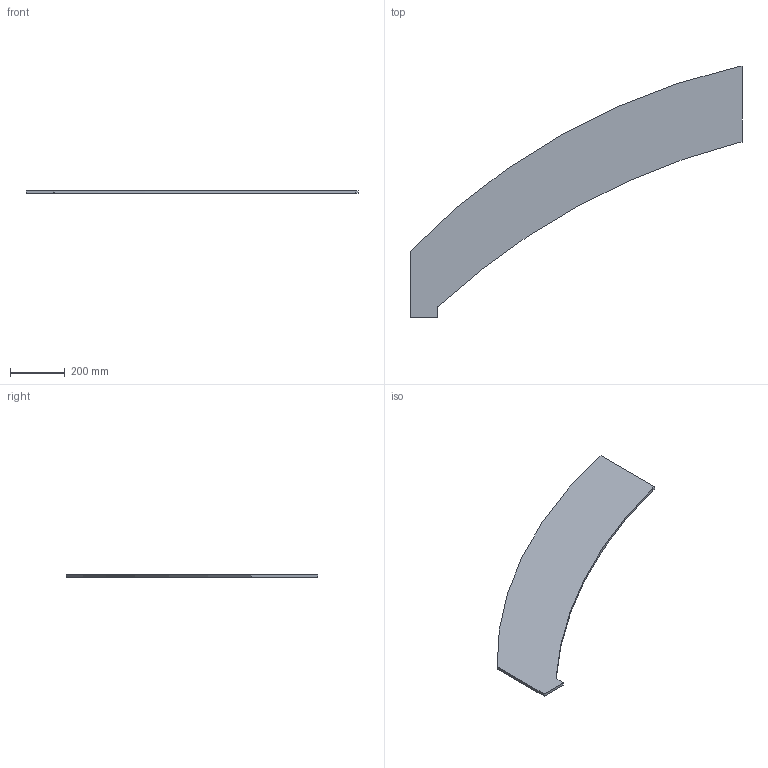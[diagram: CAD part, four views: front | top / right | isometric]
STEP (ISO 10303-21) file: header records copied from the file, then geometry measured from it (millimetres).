
FILE_DESCRIPTION(/* description */ (''),/* implementation_level */ '2;1');
FILE_NAME(/* name */ 'Pos117-Plaatwerk D= 10-S235JRG2-3st',/* time_stamp */ '2024-08-06T13:37:43+02:00',/* author */ (''),/* organization */ (''),/* preprocessor_version */ 'ST-DEVELOPER v16.5',/* originating_system */ 'HiCAD 2024 2901.2 Build 361',/* authorisation */ '');
FILE_SCHEMA (('AUTOMOTIVE_DESIGN { 1 0 10303 214 1 1 1 1 }'));
Length unit declared in the file: millimetre
Products named in the file (1): Pos117-Plaatwerk D= 10-S235JRG2-3st
Bounding box: 1215 x 919.64 x 10 mm (x, y, z)
Volume: 3547330.4 mm3; surface area: 742986.8 mm2
Topology: 1 solids, 1 shells, 11 faces, 47 edges, 58 vertices
Faces by surface type: plane 8, cylinder 3
Entity records: 897 total; most frequent: CARTESIAN_POINT 116, PRESENTATION_STYLE_ASSIGNMENT 75, DIRECTION 75, COLOUR_RGB 56, DRAUGHTING_PRE_DEFINED_CURVE_FONT 54, CURVE_STYLE 54, OVER_RIDING_STYLED_ITEM 54, ORIENTED_EDGE 54
